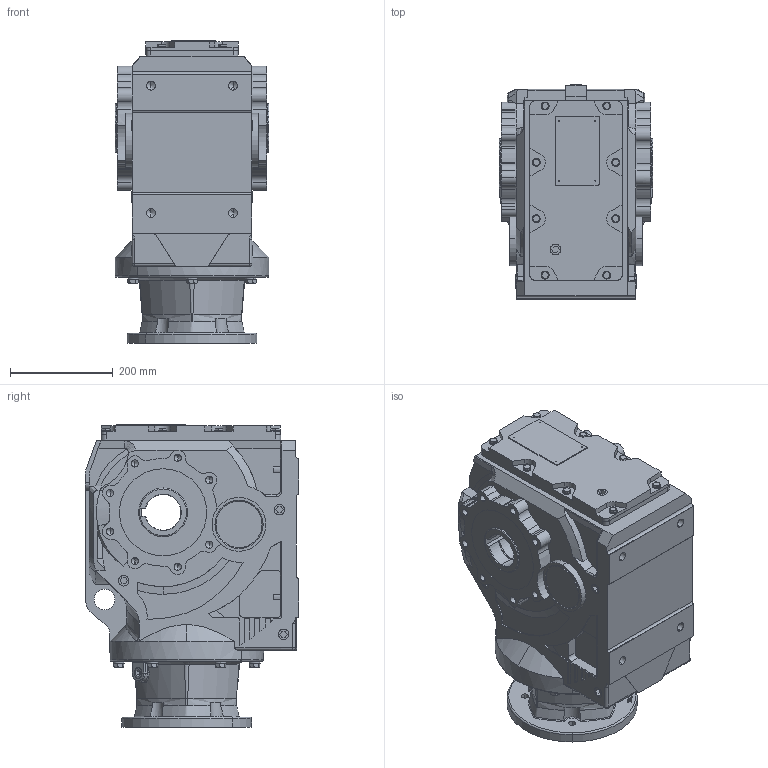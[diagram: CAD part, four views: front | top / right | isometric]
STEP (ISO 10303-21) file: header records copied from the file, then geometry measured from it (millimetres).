
FILE_DESCRIPTION (( 'STEP AP203' ), '1' );
FILE_NAME ('KAN97-254-6TC.STEP', '2022-04-11T02:52:58', ( 'Microsoft' ), ( 'Microsoft' ), 'SwSTEP 2.0', 'SolidWorks 2012', '' );
FILE_SCHEMA (( 'CONFIG_CONTROL_DESIGN' ));
Length unit declared in the file: millimetre
Products named in the file (1): KAN97-254-6TC
Bounding box: 300 x 417.1 x 590.5 mm (x, y, z)
Volume: 43517197.6 mm3; surface area: 1148561.9 mm2
Topology: 1 solids, 27 shells, 1445 faces, 3740 edges, 2366 vertices
Faces by surface type: plane 599, cylinder 495, cone 214, bspline 97, torus 37, sphere 3
Entity records: 51887 total; most frequent: CARTESIAN_POINT 17184, ORIENTED_EDGE 7302, DIRECTION 7081, EDGE_CURVE 3651, AXIS2_PLACEMENT_3D 2567, VERTEX_POINT 2366, LINE 1947, VECTOR 1947
